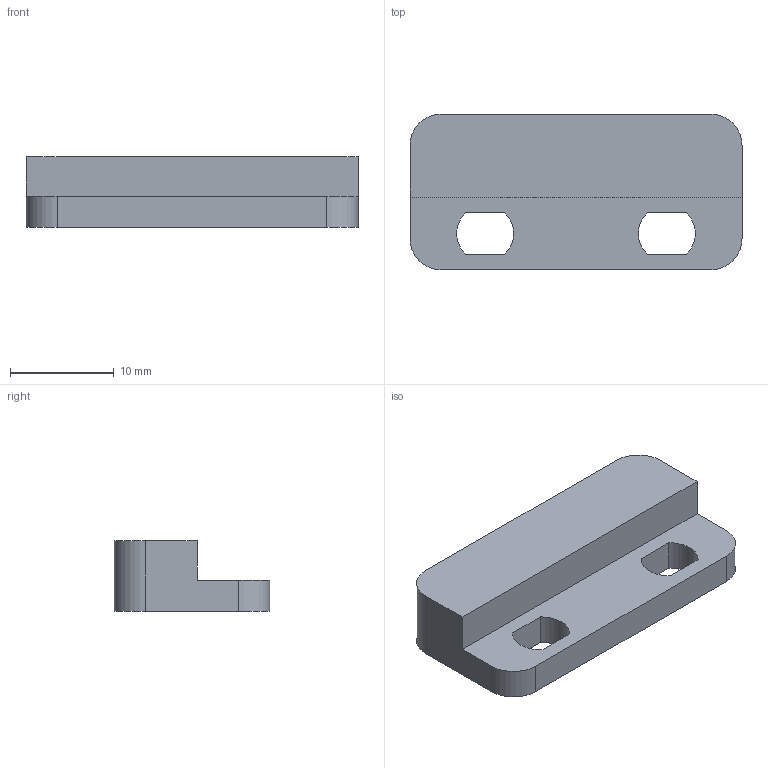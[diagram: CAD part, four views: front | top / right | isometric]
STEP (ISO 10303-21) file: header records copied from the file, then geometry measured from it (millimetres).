
FILE_DESCRIPTION((''),'2;1');
FILE_NAME('C:\Vault_local\Designs\Stock\3D pour clients\préparations\2D3D 509 A.stp','2009-08-05T09:25:08',('Georges THOLLOT ','Responsable ','Mthodes et Industrialisation',' Tl : +33 (0)4 77 53 90 27','gthollot@celduc.com'),('Celduc r e l a i s','5, rue Ampre, BP 30004','42290 SORBIERS - France','Fax. : +33 (0)4 77 53 85 51','N siret 353 310 519 00015','ISO 9001 N QUAL/1993/1106b','www.celduc.com'),'Autodesk Inventor 2009','Autodesk Inventor 2009','');
FILE_SCHEMA(('AUTOMOTIVE_DESIGN { 1 0 10303 214 1 1 1 1 }'));
Length unit declared in the file: millimetre
Products named in the file (1): P420000
Bounding box: 32 x 15 x 6.8 mm (x, y, z)
Volume: 2255.7 mm3; surface area: 1524.9 mm2
Topology: 1 solids, 1 shells, 20 faces, 54 edges, 36 vertices
Faces by surface type: plane 12, cylinder 8
Entity records: 668 total; most frequent: DIRECTION 112, CARTESIAN_POINT 111, ORIENTED_EDGE 108, EDGE_CURVE 54, VECTOR 38, LINE 38, AXIS2_PLACEMENT_3D 37, VERTEX_POINT 36
